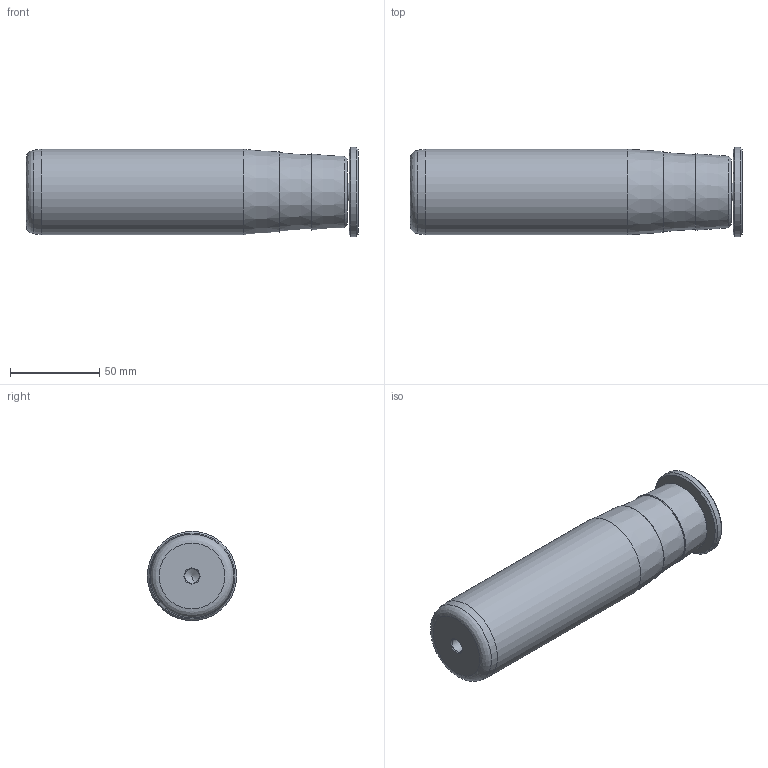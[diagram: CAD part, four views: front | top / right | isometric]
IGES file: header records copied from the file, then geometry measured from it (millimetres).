
Global section: file name: C5A48140.ipt; native system: Autodesk Inventor 2021; preprocessor: unknown; author: SM; date: 20211217.123150; units: millimetre
Bounding box: 186 x 50 x 50 mm (x, y, z)
Volume: 314103.8 mm3; surface area: 35783.4 mm2
Topology: 3 solids, 3 shells, 61 faces, 149 edges, 96 vertices
Faces by surface type: plane 32, revolution 13, cone 9, cylinder 4, bspline 3
Full cylindrical faces by diameter (mm): 10 x1, 17.879 x1, 48 x1, 50 x1
